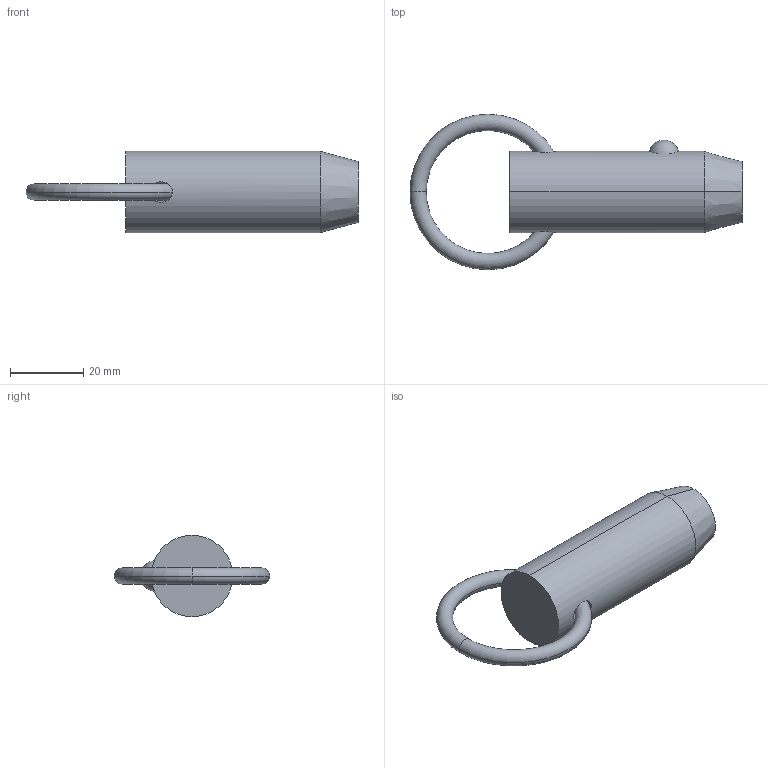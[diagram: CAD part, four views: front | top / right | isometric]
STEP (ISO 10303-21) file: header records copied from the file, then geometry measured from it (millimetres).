
FILE_DESCRIPTION (( 'STEP AP203' ), '1' );
FILE_NAME ('33010.W8810.step', '2024-11-01T10:45:10', ( '' ), ( '' ), 'SwSTEP 2.0', 'SolidWorks 2019', '' );
FILE_SCHEMA (( 'CONFIG_CONTROL_DESIGN' ));
Length unit declared in the file: millimetre
Products named in the file (3): Part1_33010.W8810; Part2_33010.W8810; 33010.W8810
Assembly tree (2 placements, depth 2):
  33010.W8810
    Part1_33010.W8810
    Part2_33010.W8810
Bounding box: 90.86 x 42.55 x 22.23 mm (x, y, z)
Volume: 25113.8 mm3; surface area: 7029.7 mm2
Topology: 2 solids, 2 shells, 16 faces, 31 edges, 18 vertices
Faces by surface type: torus 8, sphere 2, cone 2, cylinder 2, plane 2
Entity records: 903 total; most frequent: CARTESIAN_POINT 260, DIRECTION 88, ORIENTED_EDGE 62, AXIS2_PLACEMENT_3D 42, EDGE_CURVE 31, PERSON_AND_ORGANIZATION 26, CIRCLE 21, EDGE_LOOP 19
